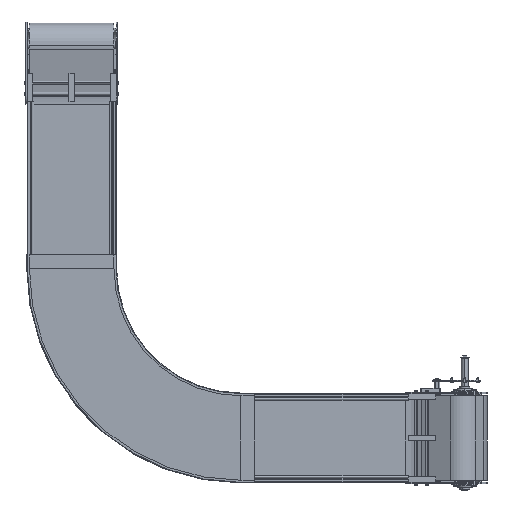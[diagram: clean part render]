
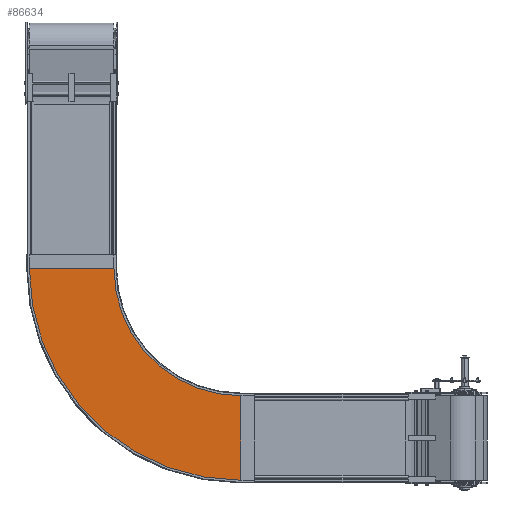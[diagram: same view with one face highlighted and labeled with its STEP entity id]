
A CAD part, front view. The second image highlights one B-rep face of the part: STEP entity #86634.
In plain terms, the highlighted planar face has unit normal (0, -1, 0).
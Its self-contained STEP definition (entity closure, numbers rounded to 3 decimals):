
#6552 = DIRECTION ( 'NONE',  ( 0., 0., -1. ) ) ;
#7826 = VERTEX_POINT ( 'NONE', #101678 ) ;
#8315 = DIRECTION ( 'NONE',  ( 0., -1., 0. ) ) ;
#11068 = LINE ( 'NONE', #54853, #100166 ) ;
#12656 = DIRECTION ( 'NONE',  ( -1., 0., 0. ) ) ;
#13121 = VERTEX_POINT ( 'NONE', #70624 ) ;
#16913 = EDGE_CURVE ( 'NONE', #83184, #71589, #43029, .T. ) ;
#21615 = CARTESIAN_POINT ( 'NONE',  ( 610., -120.83, 593. ) ) ;
#22133 = ORIENTED_EDGE ( 'NONE', *, *, #87565, .F. ) ;
#23081 = CARTESIAN_POINT ( 'NONE',  ( 610., -120.83, 1355.4 ) ) ;
#26297 = CIRCLE ( 'NONE', #66515, 457.6 ) ;
#27668 = CARTESIAN_POINT ( 'NONE',  ( 610., -120.83, 1050.6 ) ) ;
#27975 = ORIENTED_EDGE ( 'NONE', *, *, #16913, .F. ) ;
#43029 = CIRCLE ( 'NONE', #88956, 762.4 ) ;
#44190 = DIRECTION ( 'NONE',  ( -1., 0., 0. ) ) ;
#47657 = DIRECTION ( 'NONE',  ( 1., 0., 0. ) ) ;
#54066 = DIRECTION ( 'NONE',  ( 0., 0., -1. ) ) ;
#54853 = CARTESIAN_POINT ( 'NONE',  ( 152.4, -120.83, 593. ) ) ;
#61200 = ORIENTED_EDGE ( 'NONE', *, *, #62741, .T. ) ;
#62741 = EDGE_CURVE ( 'NONE', #83184, #13121, #11068, .T. ) ;
#63343 = DIRECTION ( 'NONE',  ( 0., 1., 0. ) ) ;
#66515 = AXIS2_PLACEMENT_3D ( 'NONE', #21615, #94758, #12656 ) ;
#70624 = CARTESIAN_POINT ( 'NONE',  ( 152.4, -120.83, 593. ) ) ;
#71589 = VERTEX_POINT ( 'NONE', #23081 ) ;
#71745 = CARTESIAN_POINT ( 'NONE',  ( 610., -120.83, 593. ) ) ;
#72472 = EDGE_CURVE ( 'NONE', #13121, #7826, #26297, .T. ) ;
#80237 = CARTESIAN_POINT ( 'NONE',  ( 152.4, -120.83, 593. ) ) ;
#83184 = VERTEX_POINT ( 'NONE', #108650 ) ;
#83778 = ORIENTED_EDGE ( 'NONE', *, *, #72472, .T. ) ;
#86634 = ADVANCED_FACE ( 'NONE', ( #115649 ), #116822, .T. ) ;
#87565 = EDGE_CURVE ( 'NONE', #71589, #7826, #110973, .T. ) ;
#88956 = AXIS2_PLACEMENT_3D ( 'NONE', #71745, #63343, #44190 ) ;
#91861 = VECTOR ( 'NONE', #54066, 1000. ) ;
#94758 = DIRECTION ( 'NONE',  ( 0., 1., 0. ) ) ;
#97298 = EDGE_LOOP ( 'NONE', ( #83778, #22133, #27975, #61200 ) ) ;
#100166 = VECTOR ( 'NONE', #47657, 1000. ) ;
#101678 = CARTESIAN_POINT ( 'NONE',  ( 610., -120.83, 1050.6 ) ) ;
#106995 = AXIS2_PLACEMENT_3D ( 'NONE', #80237, #8315, #6552 ) ;
#108650 = CARTESIAN_POINT ( 'NONE',  ( -152.4, -120.83, 593. ) ) ;
#110973 = LINE ( 'NONE', #27668, #91861 ) ;
#115649 = FACE_OUTER_BOUND ( 'NONE', #97298, .T. ) ;
#116822 = PLANE ( 'NONE',  #106995 ) ;
